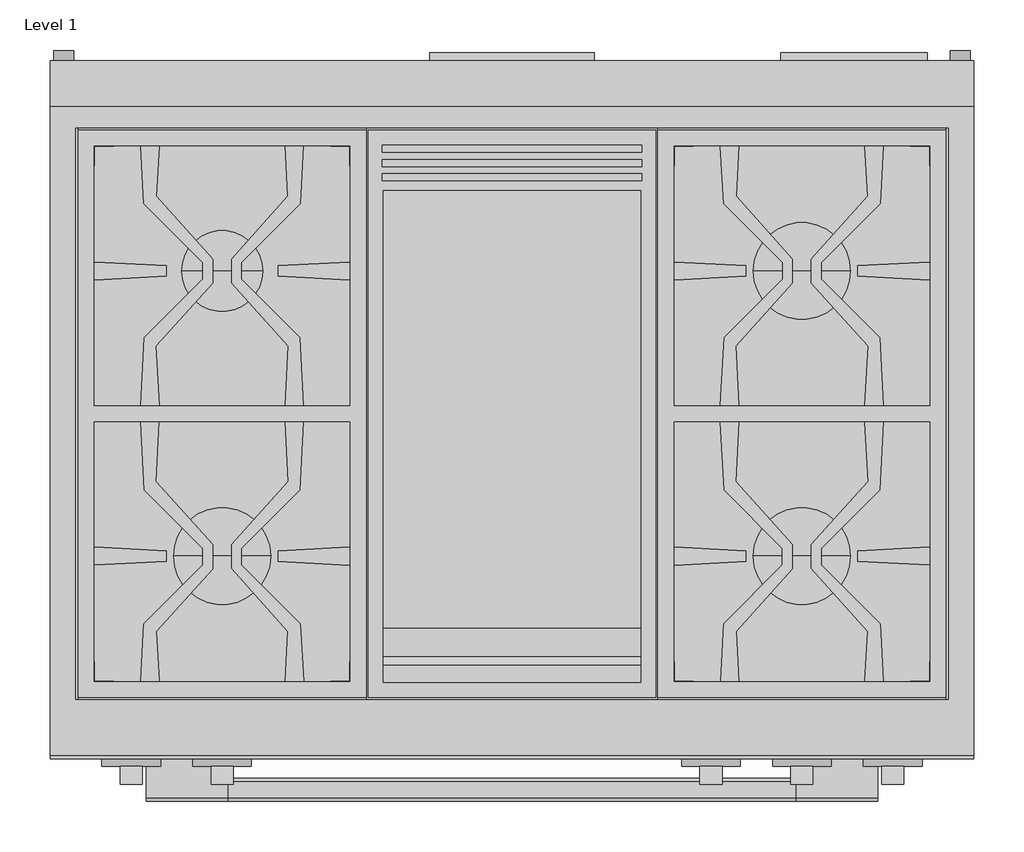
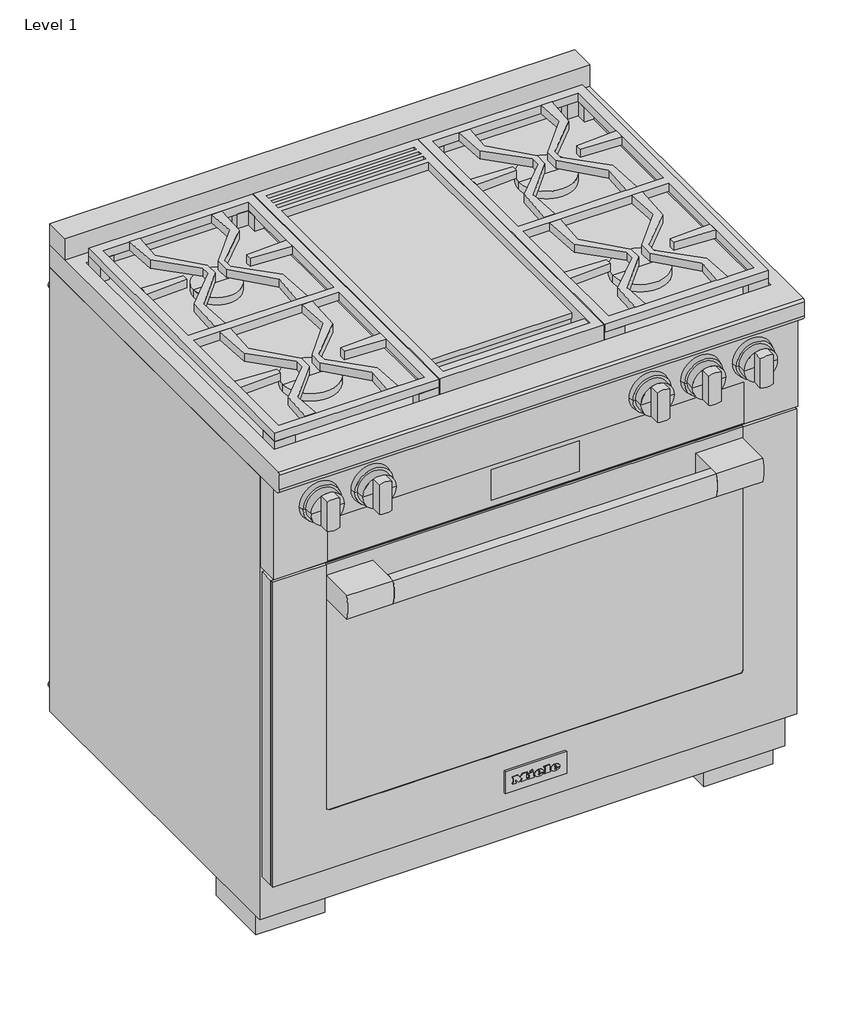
# One storey: 1 proxy.
"""IFC4 building model written with IfcOpenShell, lengths in millimetres."""

from ifc_helpers import new_model, si_unit, origin, place, context, project, spatial, transform, mapped, element, save
from components import specialty_equipment_9b3b433e, specialty_equipment_e8b4f273

model = new_model("IFC4")

# Units and contexts
model_context = context("Model", 3, world=origin())
ifc_project = project(units=[si_unit("LENGTHUNIT", "METRE", prefix="MILLI")], contexts=[model_context])

# Site, building, storey
site = spatial("IfcSite", under=ifc_project)
building = spatial("IfcBuilding", under=site)
storey = spatial("IfcBuildingStorey", under=building, Name="Level 1", Elevation=0.0)

# Proxy
placement = place(None, origin())
specialty_equipment_shape = specialty_equipment_9b3b433e(model_context)
specialty_equipment_2_shape = specialty_equipment_e8b4f273(model_context)
element("IfcBuildingElementProxy", 1, Name="11791630_USA_HR1936-3LP_EDST-CLS : 25193682_USA_11791630_HR1936-3LP_EDST-CLS", ObjectType="11791630_USA_HR1936-3LP_EDST-CLS : 25193682_USA_11791630_HR1936-3LP_EDST-CLS", at=placement, inside=storey, context=model_context, shape_type="MappedRepresentation", body=[
    mapped(specialty_equipment_shape, transform((0.0, 0.0, 0.0), x_axis=(1.0, 0.0, 0.0), y_axis=(0.0, 1.0, 0.0), z_axis=(0.0, 0.0, 1.0))),
    mapped(specialty_equipment_2_shape, transform((0.0, 0.0, 0.0), x_axis=(1.0, 0.0, 0.0), y_axis=(0.0, 1.0, 0.0), z_axis=(0.0, 0.0, 1.0))),
])

save(model, "model.ifc")
